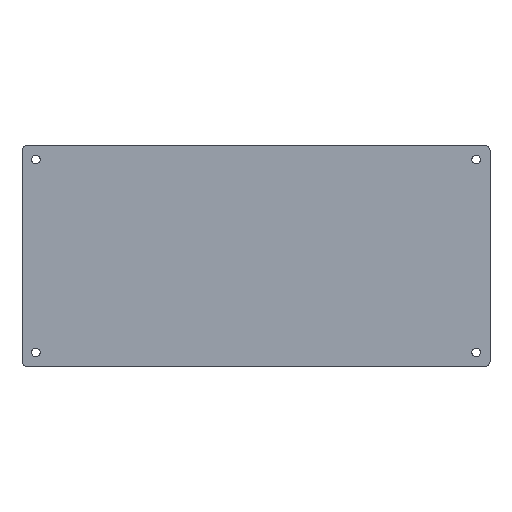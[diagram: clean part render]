
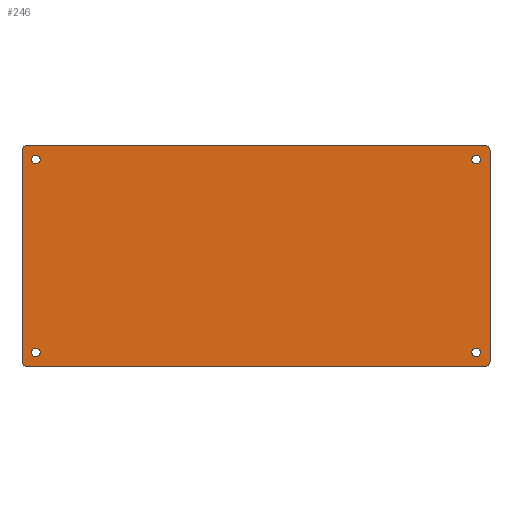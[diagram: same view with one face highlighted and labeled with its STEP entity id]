
A CAD part, front view. The second image highlights one B-rep face of the part: STEP entity #246.
In plain terms, the highlighted planar face has unit normal (0, -1, 0).
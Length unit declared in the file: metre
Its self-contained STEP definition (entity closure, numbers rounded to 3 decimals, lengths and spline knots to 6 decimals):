
#20=LINE('',#387,#36);
#21=LINE('',#392,#37);
#22=LINE('',#396,#38);
#23=LINE('',#400,#39);
#36=VECTOR('',#311,1.);
#37=VECTOR('',#314,1.);
#38=VECTOR('',#317,1.);
#39=VECTOR('',#320,1.);
#52=ORIENTED_EDGE('',*,*,#116,.T.);
#53=ORIENTED_EDGE('',*,*,#117,.F.);
#54=ORIENTED_EDGE('',*,*,#118,.T.);
#55=ORIENTED_EDGE('',*,*,#119,.T.);
#56=ORIENTED_EDGE('',*,*,#120,.F.);
#57=ORIENTED_EDGE('',*,*,#121,.T.);
#58=ORIENTED_EDGE('',*,*,#122,.F.);
#59=ORIENTED_EDGE('',*,*,#123,.T.);
#60=ORIENTED_EDGE('',*,*,#124,.T.);
#61=ORIENTED_EDGE('',*,*,#125,.T.);
#62=ORIENTED_EDGE('',*,*,#126,.F.);
#63=ORIENTED_EDGE('',*,*,#127,.T.);
#116=EDGE_CURVE('',#148,#148,#172,.T.);
#117=EDGE_CURVE('',#149,#149,#173,.T.);
#118=EDGE_CURVE('',#150,#151,#20,.T.);
#119=EDGE_CURVE('',#151,#152,#174,.T.);
#120=EDGE_CURVE('',#153,#152,#21,.T.);
#121=EDGE_CURVE('',#153,#154,#175,.T.);
#122=EDGE_CURVE('',#155,#154,#22,.T.);
#123=EDGE_CURVE('',#155,#156,#176,.T.);
#124=EDGE_CURVE('',#156,#157,#23,.T.);
#125=EDGE_CURVE('',#157,#150,#177,.T.);
#126=EDGE_CURVE('',#158,#158,#178,.T.);
#127=EDGE_CURVE('',#159,#159,#179,.T.);
#148=VERTEX_POINT('',#384);
#149=VERTEX_POINT('',#386);
#150=VERTEX_POINT('',#388);
#151=VERTEX_POINT('',#389);
#152=VERTEX_POINT('',#391);
#153=VERTEX_POINT('',#393);
#154=VERTEX_POINT('',#395);
#155=VERTEX_POINT('',#397);
#156=VERTEX_POINT('',#399);
#157=VERTEX_POINT('',#401);
#158=VERTEX_POINT('',#404);
#159=VERTEX_POINT('',#406);
#172=CIRCLE('',#274,0.002);
#173=CIRCLE('',#275,0.002);
#174=CIRCLE('',#276,0.002);
#175=CIRCLE('',#277,0.002);
#176=CIRCLE('',#278,0.002);
#177=CIRCLE('',#279,0.002);
#178=CIRCLE('',#280,0.002);
#179=CIRCLE('',#281,0.002);
#188=EDGE_LOOP('',(#52));
#189=EDGE_LOOP('',(#53));
#190=EDGE_LOOP('',(#54,#55,#56,#57,#58,#59,#60,#61));
#191=EDGE_LOOP('',(#62));
#192=EDGE_LOOP('',(#63));
#214=FACE_BOUND('',#188,.T.);
#215=FACE_BOUND('',#189,.T.);
#216=FACE_BOUND('',#190,.T.);
#217=FACE_BOUND('',#191,.T.);
#218=FACE_BOUND('',#192,.T.);
#240=PLANE('',#273);
#246=ADVANCED_FACE('',(#214,#215,#216,#217,#218),#240,.T.);
#273=AXIS2_PLACEMENT_3D('',#382,#305,#306);
#274=AXIS2_PLACEMENT_3D('',#383,#307,#308);
#275=AXIS2_PLACEMENT_3D('',#385,#309,#310);
#276=AXIS2_PLACEMENT_3D('',#390,#312,#313);
#277=AXIS2_PLACEMENT_3D('',#394,#315,#316);
#278=AXIS2_PLACEMENT_3D('',#398,#318,#319);
#279=AXIS2_PLACEMENT_3D('',#402,#321,#322);
#280=AXIS2_PLACEMENT_3D('',#403,#323,#324);
#281=AXIS2_PLACEMENT_3D('',#405,#325,#326);
#305=DIRECTION('',(0.,-1.,0.));
#306=DIRECTION('',(1.,0.,0.));
#307=DIRECTION('',(0.,1.,0.));
#308=DIRECTION('',(0.,0.,-1.));
#309=DIRECTION('',(0.,-1.,0.));
#310=DIRECTION('',(0.,0.,-1.));
#311=DIRECTION('',(0.,0.,1.));
#312=DIRECTION('',(0.,-1.,0.));
#313=DIRECTION('',(0.,0.,-1.));
#314=DIRECTION('',(1.,0.,0.));
#315=DIRECTION('',(0.,-1.,0.));
#316=DIRECTION('',(0.,0.,-1.));
#317=DIRECTION('',(0.,0.,1.));
#318=DIRECTION('',(0.,-1.,0.));
#319=DIRECTION('',(0.,0.,-1.));
#320=DIRECTION('',(1.,0.,0.));
#321=DIRECTION('',(0.,-1.,0.));
#322=DIRECTION('',(0.,0.,-1.));
#323=DIRECTION('',(0.,-1.,0.));
#324=DIRECTION('',(0.,0.,-1.));
#325=DIRECTION('',(0.,1.,0.));
#326=DIRECTION('',(0.,0.,-1.));
#382=CARTESIAN_POINT('',(0.10795,-0.003175,0.0508));
#383=CARTESIAN_POINT('',(0.20955,-0.003175,0.09525));
#384=CARTESIAN_POINT('',(0.20955,-0.003175,0.09325));
#385=CARTESIAN_POINT('',(0.00635,-0.003175,0.09525));
#386=CARTESIAN_POINT('',(0.00635,-0.003175,0.09325));
#387=CARTESIAN_POINT('',(0.2159,-0.003175,0.0508));
#388=CARTESIAN_POINT('',(0.2159,-0.003175,0.002));
#389=CARTESIAN_POINT('',(0.2159,-0.003175,0.0996));
#390=CARTESIAN_POINT('',(0.2139,-0.003175,0.0996));
#391=CARTESIAN_POINT('',(0.2139,-0.003175,0.1016));
#392=CARTESIAN_POINT('',(0.10795,-0.003175,0.1016));
#393=CARTESIAN_POINT('',(0.002,-0.003175,0.1016));
#394=CARTESIAN_POINT('',(0.002,-0.003175,0.0996));
#395=CARTESIAN_POINT('',(0.,-0.003175,0.0996));
#396=CARTESIAN_POINT('',(0.,-0.003175,0.0508));
#397=CARTESIAN_POINT('',(0.,-0.003175,0.002));
#398=CARTESIAN_POINT('',(0.002,-0.003175,0.002));
#399=CARTESIAN_POINT('',(0.002,-0.003175,0.));
#400=CARTESIAN_POINT('',(0.10795,-0.003175,0.));
#401=CARTESIAN_POINT('',(0.2139,-0.003175,0.));
#402=CARTESIAN_POINT('',(0.2139,-0.003175,0.002));
#403=CARTESIAN_POINT('',(0.20955,-0.003175,0.00635));
#404=CARTESIAN_POINT('',(0.20955,-0.003175,0.00435));
#405=CARTESIAN_POINT('',(0.00635,-0.003175,0.00635));
#406=CARTESIAN_POINT('',(0.00635,-0.003175,0.00435));
